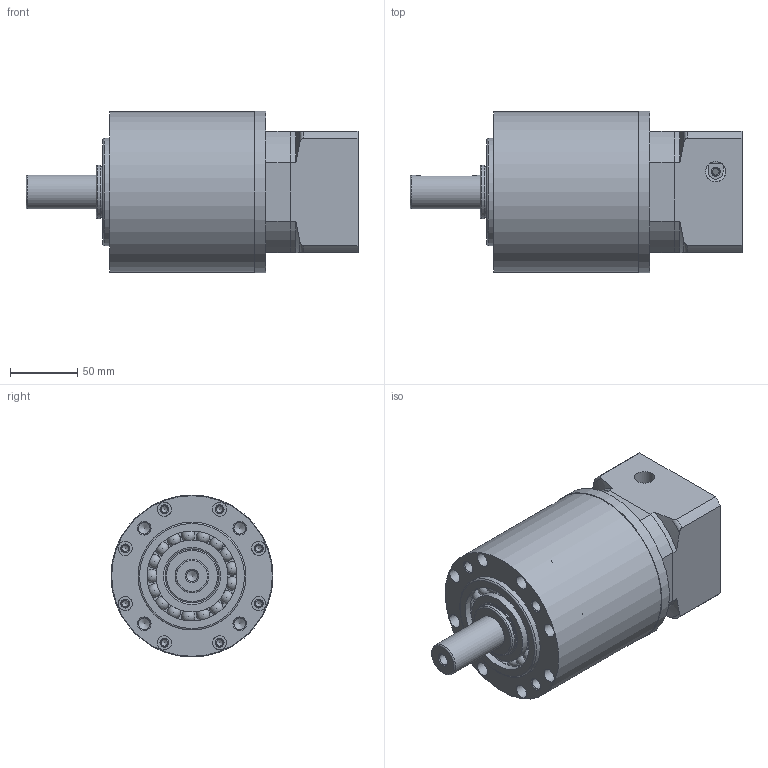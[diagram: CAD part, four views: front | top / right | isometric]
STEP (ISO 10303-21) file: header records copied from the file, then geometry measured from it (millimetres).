
FILE_DESCRIPTION(/* description */ (''),/* implementation_level */ '2;1');
FILE_NAME(/* name */ 'PLE120-L3-LC 19-70-90-M5.stp',/* time_stamp */ '2021-09-27T13:31:12+08:00',/* author */ (''),/* organization */ (''),/* preprocessor_version */ 'ST-DEVELOPER v16.7',/* originating_system */ 'SIEMENS PLM Software NX 12.0',/* authorisation */ '');
FILE_SCHEMA (('AP203_CONFIGURATION_CONTROLLED_3D_DESIGN_OF_MECHANICAL_PARTS_AND_ASSEMBLIES_MIM_LF { 1 0 10303 403 2 1 2}'));
Length unit declared in the file: millimetre
Products named in the file (1): PLE120-L3-LC 19-70-90-M5
Bounding box: 246 x 120 x 120 mm (x, y, z)
Volume: 1532761.4 mm3; surface area: 230334 mm2
Topology: 4 solids, 6 shells, 394 faces, 1185 edges, 789 vertices
Faces by surface type: cylinder 137, plane 98, torus 84, cone 41, sphere 34
Full cylindrical faces by diameter (mm): 4.2 x5, 5 x24, 6.5 x20, 8.5 x5, 10.5 x12, 14 x3, 15 x1, 19 x1, 20 x1, 25 x1, 28 x1, 30 x2, 35 x1, 37.5 x1, 40 x4, 47 x1, 53.333 x4, 55 x2, 58 x1, 66.667 x4, 68 x1, 70 x1, 74.3 x1, 80 x6, 83.5 x1, 85 x1, 90 x1, 95.9 x2, 100 x3, 119 x1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
Entity records: 14959 total; most frequent: CARTESIAN_POINT 3302, DIRECTION 1742, ORIENTED_EDGE 1662, EDGE_CURVE 831, AXIS2_PLACEMENT_3D 820, EDGE_LOOP 684, VERTEX_POINT 660, FACE_BOUND 587
